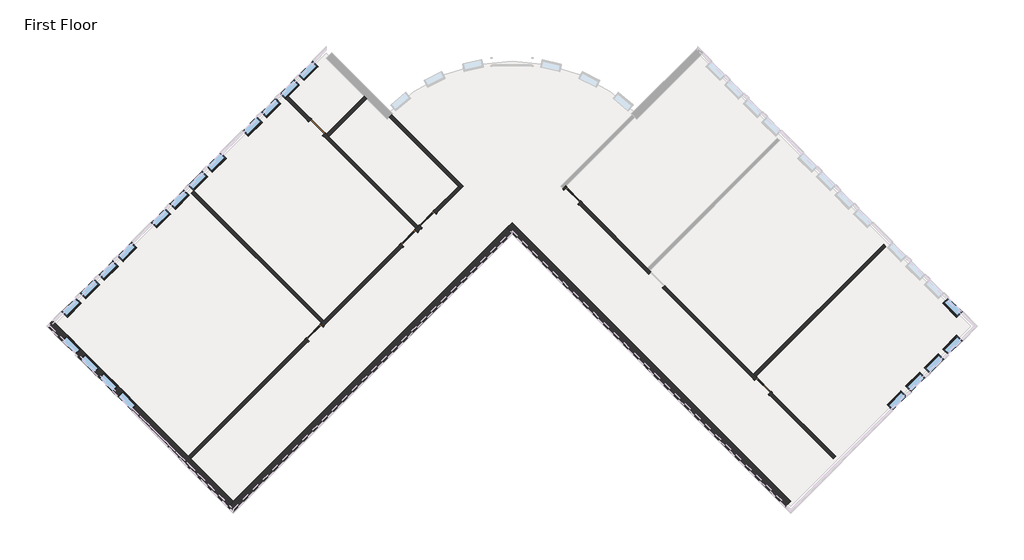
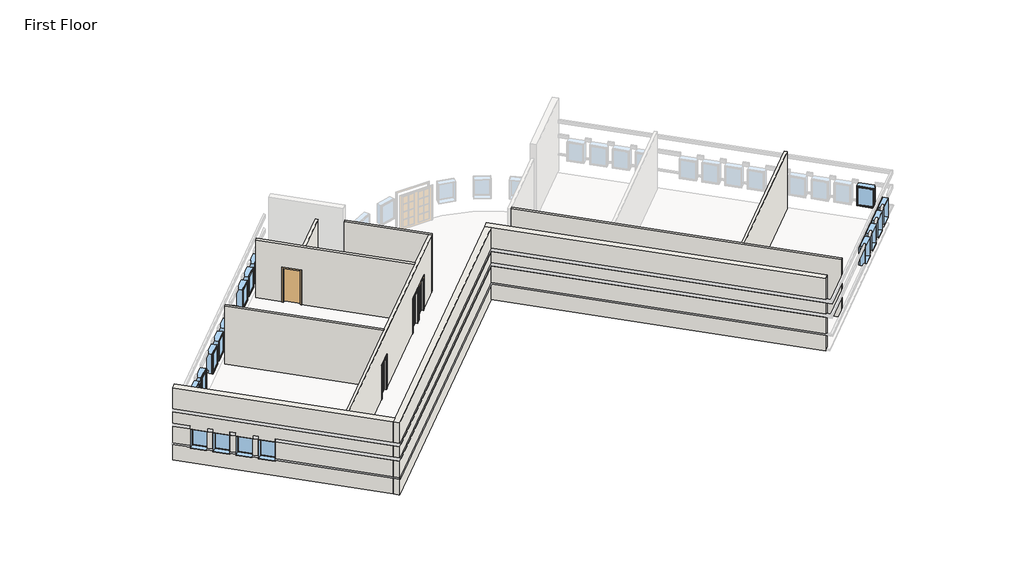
# One storey, part 1 of 3: 21 windows, 10 walls, 6 doors.
"""IFC4 building model written with IfcOpenShell, lengths in millimetres."""

from ifc_helpers import new_model, si_unit, frame, origin, origin_with_axes, place, context, project, spatial, polyline, circle_curve, outline, extrude, faceted_brep, transform, mapped, element, save
from ifc_brep_helpers import plane_surface, cylinder_surface, advanced_brep
from components import door_f9494b7c, door_b81abb0e, door_5f5b55da, window_15c49d37, window_0e2fc6ce

model = new_model("IFC4")

# Units and contexts
model_context = context("Model", 3, world=origin())
ifc_project = project(units=[si_unit("LENGTHUNIT", "METRE", prefix="MILLI")], contexts=[model_context])

# Site, building, storey
site = spatial("IfcSite", under=ifc_project)
building = spatial("IfcBuilding", under=site)
storey = spatial("IfcBuildingStorey", under=building, Name="First Floor", Elevation=0.0)

# Doors
placement = place(None, origin())
door_shape = door_f9494b7c(model_context)
element("IfcDoor", 1, ObjectType="Single-Flush : 36\" x 84\"", at=placement, inside=storey, context=model_context, shape_type="MappedRepresentation", body=[
    mapped(door_shape, transform((-11920.1265343, 7875.9588464, 0.0), x_axis=(0.7071067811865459, -0.7071067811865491, 0.0), y_axis=(0.7071067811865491, 0.7071067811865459, 0.0), z_axis=(0.0, 0.0, 1.0))),
])
door_2_shape = door_b81abb0e(model_context)
element("IfcDoor", 2, ObjectType="Single-Glass 1 : 36\" x 84\"", at=placement, inside=storey, context=model_context, shape_type="MappedRepresentation", body=[
    mapped(door_2_shape, transform((-12027.7718255, -1647.4849877, 0.0), x_axis=(0.7071067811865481, 0.7071067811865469, 0.0), y_axis=(-0.7071067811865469, 0.7071067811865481, 0.0), z_axis=(0.0, 0.0, 1.0))),
])
element("IfcDoor", 3, ObjectType="Single-Glass 1 : 36\" x 84\"", at=placement, inside=storey, context=model_context, shape_type="MappedRepresentation", body=[
    mapped(door_2_shape, transform((-7643.2795567, 2737.0072811, 0.0), x_axis=(0.7071067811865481, 0.7071067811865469, 0.0), y_axis=(-0.7071067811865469, 0.7071067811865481, 0.0), z_axis=(0.0, 0.0, 1.0))),
])
door_3_shape = door_5f5b55da(model_context)
element("IfcDoor", 4, ObjectType="Single-Glass 1 : 36\" x 84\"", at=placement, inside=storey, context=model_context, shape_type="MappedRepresentation", body=[
    mapped(door_3_shape, transform((-6781.1749691, 3599.1118687, 0.0), x_axis=(-0.7071067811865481, -0.7071067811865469, 0.0), y_axis=(0.7071067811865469, -0.7071067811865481, 0.0), z_axis=(0.0, 0.0, 1.0))),
])
element("IfcDoor", 5, ObjectType="Single-Glass 1 : 36\" x 84\"", at=placement, inside=storey, context=model_context, shape_type="MappedRepresentation", body=[
    mapped(door_3_shape, transform((-66.4240191, 4710.6541283, 0.0), x_axis=(-0.7071067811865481, 0.7071067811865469, 0.0), y_axis=(-0.7071067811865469, -0.7071067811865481, 0.0), z_axis=(0.0, 0.0, 1.0))),
])
element("IfcDoor", 6, ObjectType="Single-Glass 1 : 36\" x 84\"", at=placement, inside=storey, context=model_context, shape_type="MappedRepresentation", body=[
    mapped(door_3_shape, transform((8770.3835686, -4126.1534594, 0.0), x_axis=(-0.7071067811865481, 0.7071067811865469, 0.0), y_axis=(-0.7071067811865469, -0.7071067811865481, 0.0), z_axis=(0.0, 0.0, 1.0))),
])

# Walls
element("IfcWall", 7, ObjectType="Exterior - Split Face and CMU on Mtl. Stud", at=placement, inside=storey, context=model_context, shape_type="Brep", body=[
    faceted_brep([(10063.54045, -9480.6311716, 0.0), (-2868.0283643, 3450.9376427, 0.0), (-2868.0283643, 3450.9376427, 4572.0), (10063.54045, -9480.6311716, 4572.0), (9814.3383427, -9729.833279, 4572.0), (-2868.0283643, 2952.533428, 4572.0), (-3117.2304717, 3201.7355354, 4572.0), (-3117.2304717, 3201.7355354, 0.0), (-2868.0283643, 2952.533428, 0.0), (9814.3383427, -9729.833279, 0.0), (9814.3383427, -9729.833279, 1016.0), (-2868.0283643, 2952.533428, 1016.0), (-2933.1352212, 3017.6402849, 1016.0), (-2933.1352212, 3017.6402849, 1085.85), (-2868.0283643, 2952.533428, 1085.85), (9814.3383427, -9729.833279, 1085.85), (9814.3383427, -9729.833279, 2133.6), (-2868.0283643, 2952.533428, 2133.6), (-2933.1352212, 3017.6402849, 2133.6), (-2933.1352212, 3017.6402849, 2336.8), (-2868.0283643, 2952.533428, 2336.8), (9814.3383427, -9729.833279, 2336.8), (9814.3383427, -9729.833279, 3048.0), (-2868.0283643, 2952.533428, 3048.0), (-2933.1352212, 3017.6402849, 3048.0), (-2933.1352212, 3017.6402849, 3251.2), (-2868.0283643, 2952.533428, 3251.2), (9814.3383427, -9729.833279, 3251.2), (-3052.1236148, 3266.8423923, 0.0), (9879.4451996, -9664.7264221, 3251.2), (9879.4451996, -9664.7264221, 3048.0), (9879.4451996, -9664.7264221, 2336.8), (9879.4451996, -9664.7264221, 2133.6), (9879.4451996, -9664.7264221, 1085.85), (9879.4451996, -9664.7264221, 1016.0), (9879.4451996, -9664.7264221, 0.0), (-2868.0283643, 3082.7471418, 1085.85), (-2868.0283643, 3082.7471418, 1016.0), (-2868.0283643, 3082.7471418, 2133.6), (-2868.0283643, 3082.7471418, 2336.8), (-2868.0283643, 3082.7471418, 3048.0), (-2868.0283643, 3082.7471418, 3251.2)], [[[0, 1, 2, 3]], [[4, 5, 6, 7, 8, 9, 10, 11, 12, 13, 14, 15, 16, 17, 18, 19, 20, 21, 22, 23, 24, 25, 26, 27]], [[3, 2, 6, 5, 4]], [[2, 1, 28, 7, 6]], [[0, 3, 4, 27, 29, 30, 22, 21, 31, 32, 16, 15, 33, 34, 10, 9, 35]], [[1, 0, 35, 28]], [[35, 9, 8, 7, 28]], [[13, 36, 33, 15, 14]], [[34, 37, 12, 11, 10]], [[36, 37, 34, 33]], [[37, 36, 13, 12]], [[32, 38, 18, 17, 16]], [[19, 39, 31, 21, 20]], [[39, 38, 32, 31]], [[38, 39, 19, 18]], [[30, 40, 24, 23, 22]], [[25, 41, 29, 27, 26]], [[41, 40, 30, 29]], [[40, 41, 25, 24]]]),
])
element("IfcWall", 8, ObjectType="Exterior - Split Face and CMU on Mtl. Stud", at=placement, inside=storey, context=model_context, shape_type="Brep", body=[
    faceted_brep([(-3117.2304717, 3201.7355354, 0.0), (-15799.5971786, -9480.6311716, 0.0), (-16048.799286, -9729.833279, 0.0), (-16048.799286, -9729.833279, 1016.0), (-15983.6924291, -9664.7264221, 1016.0), (-15983.6924291, -9664.7264221, 1085.85), (-16048.799286, -9729.833279, 1085.85), (-16048.799286, -9729.833279, 2133.6), (-15983.6924291, -9664.7264221, 2133.6), (-15983.6924291, -9664.7264221, 2336.8), (-16048.799286, -9729.833279, 2336.8), (-16048.799286, -9729.833279, 3048.0), (-15983.6924291, -9664.7264221, 3048.0), (-15983.6924291, -9664.7264221, 3251.2), (-16048.799286, -9729.833279, 3251.2), (-16048.799286, -9729.833279, 4572.0), (-15799.5971786, -9480.6311716, 4572.0), (-3117.2304717, 3201.7355354, 4572.0), (-2868.0283643, 2952.533428, 4572.0), (-15799.5971786, -9979.0353863, 4572.0), (-15799.5971786, -9979.0353863, 3251.2), (-2868.0283643, 2952.533428, 3251.2), (-15799.5971786, -9979.0353863, 0.0), (-2868.0283643, 2952.533428, 0.0), (-2868.0283643, 2952.533428, 1016.0), (-15799.5971786, -9979.0353863, 1016.0), (-15799.5971786, -9979.0353863, 1085.85), (-2868.0283643, 2952.533428, 1085.85), (-2868.0283643, 2952.533428, 2133.6), (-15799.5971786, -9979.0353863, 2133.6), (-15799.5971786, -9979.0353863, 2336.8), (-2868.0283643, 2952.533428, 2336.8), (-2868.0283643, 2952.533428, 3048.0), (-15799.5971786, -9979.0353863, 3048.0), (-15864.7040355, -9913.9285294, 0.0), (-2933.1352212, 3017.6402849, 3251.2), (-2933.1352212, 3017.6402849, 3048.0), (-2933.1352212, 3017.6402849, 2336.8), (-2933.1352212, 3017.6402849, 2133.6), (-2933.1352212, 3017.6402849, 1085.85), (-2933.1352212, 3017.6402849, 1016.0), (-2933.1352212, 3017.6402849, 0.0), (-15799.5971786, -9848.8216726, 1085.85), (-15799.5971786, -9848.8216726, 1016.0), (-15799.5971786, -9848.8216726, 2133.6), (-15799.5971786, -9848.8216726, 2336.8), (-15799.5971786, -9848.8216726, 3048.0), (-15799.5971786, -9848.8216726, 3251.2)], [[[0, 1, 2, 3, 4, 5, 6, 7, 8, 9, 10, 11, 12, 13, 14, 15, 16, 17]], [[18, 19, 20, 21]], [[22, 23, 24, 25]], [[26, 27, 28, 29]], [[30, 31, 32, 33]], [[17, 16, 15, 19, 18]], [[19, 15, 14, 20]], [[2, 34, 22, 25, 3]], [[6, 26, 29, 7]], [[10, 30, 33, 11]], [[0, 17, 18, 21, 35, 36, 32, 31, 37, 38, 28, 27, 39, 40, 24, 23, 41]], [[2, 1, 0, 41, 34]], [[41, 23, 22, 34]], [[5, 42, 39, 27, 26, 6]], [[40, 43, 4, 3, 25, 24]], [[42, 43, 40, 39]], [[43, 42, 5, 4]], [[38, 44, 8, 7, 29, 28]], [[9, 45, 37, 31, 30, 10]], [[45, 44, 38, 37]], [[44, 45, 9, 8]], [[36, 46, 12, 11, 33, 32]], [[13, 47, 35, 21, 20, 14]], [[47, 46, 36, 35]], [[46, 47, 13, 12]]]),
])
element("IfcWall", 9, ObjectType="Exterior - Split Face and CMU on Mtl. Stud", at=placement, inside=storey, context=model_context, shape_type="Brep", body=[
    faceted_brep([(-15799.5971786, -9480.6311716, 4572.0), (-23922.2388402, -1357.9895101, 4572.0), (-24171.4409475, -1108.7874027, 4572.0), (-24420.6430549, -1357.9895101, 4572.0), (-16048.799286, -9729.833279, 4572.0), (-15799.5971786, -9480.6311716, 0.0), (-17775.2535253, -7504.974825, 0.0), (-17885.2616628, -7394.9666875, 0.0), (-23922.2388402, -1357.9895101, 0.0), (-24171.4409475, -1108.7874027, 0.0), (-24171.4409475, -1108.7874027, 1016.0), (-24106.3340906, -1173.8942596, 1016.0), (-24106.3340906, -1173.8942596, 1085.85), (-24171.4409475, -1108.7874027, 1085.85), (-24171.4409475, -1108.7874027, 2133.6), (-24106.3340906, -1173.8942596, 2133.6), (-24106.3340906, -1173.8942596, 2336.8), (-24171.4409475, -1108.7874027, 2336.8), (-24171.4409475, -1108.7874027, 3048.0), (-24106.3340906, -1173.8942596, 3048.0), (-24106.3340906, -1173.8942596, 3251.2), (-24171.4409475, -1108.7874027, 3251.2), (-20921.7107637, -4358.5175865, 2133.6), (-20921.7107637, -4358.5175865, 914.4), (-20275.132323, -5005.0960273, 914.4), (-20275.132323, -5005.0960273, 2133.6), (-21783.8153513, -3496.4129989, 2133.6), (-21783.8153513, -3496.4129989, 914.4), (-21137.2369106, -4142.9914396, 914.4), (-21137.2369106, -4142.9914396, 2133.6), (-22645.9199389, -2634.3084113, 2133.6), (-22645.9199389, -2634.3084113, 914.4), (-21999.3414982, -3280.886852, 914.4), (-21999.3414982, -3280.886852, 2133.6), (-23508.0245266, -1772.2038237, 2133.6), (-23508.0245266, -1772.2038237, 914.4), (-22861.4460859, -2418.7822644, 914.4), (-22861.4460859, -2418.7822644, 2133.6), (-24420.6430549, -1357.9895101, 3251.2), (-16048.799286, -9729.833279, 3251.2), (-24420.6430549, -1357.9895101, 0.0), (-16048.799286, -9729.833279, 0.0), (-16048.799286, -9729.833279, 1016.0), (-20524.3344303, -5254.2981346, 1016.0), (-20524.3344303, -5254.2981346, 914.4), (-21170.9128711, -4607.7196939, 914.4), (-21170.9128711, -4607.7196939, 1016.0), (-21386.439018, -4392.193547, 1016.0), (-21386.439018, -4392.193547, 914.4), (-22033.0174587, -3745.6151063, 914.4), (-22033.0174587, -3745.6151063, 1016.0), (-22248.5436056, -3530.0889594, 1016.0), (-22248.5436056, -3530.0889594, 914.4), (-22895.1220463, -2883.5105187, 914.4), (-22895.1220463, -2883.5105187, 1016.0), (-23110.6481932, -2667.9843718, 1016.0), (-23110.6481932, -2667.9843718, 914.4), (-23757.2266339, -2021.405931, 914.4), (-23757.2266339, -2021.405931, 1016.0), (-24420.6430549, -1357.9895101, 1016.0), (-21170.9128711, -4607.7196939, 2133.6), (-20524.3344303, -5254.2981346, 2133.6), (-20524.3344303, -5254.2981346, 2336.8), (-16048.799286, -9729.833279, 2336.8), (-16048.799286, -9729.833279, 3048.0), (-24420.6430549, -1357.9895101, 3048.0), (-24420.6430549, -1357.9895101, 2336.8), (-23757.2266339, -2021.405931, 2336.8), (-23757.2266339, -2021.405931, 2133.6), (-23110.6481932, -2667.9843718, 2133.6), (-23110.6481932, -2667.9843718, 2336.8), (-22895.1220463, -2883.5105187, 2336.8), (-22895.1220463, -2883.5105187, 2133.6), (-22248.5436056, -3530.0889594, 2133.6), (-22248.5436056, -3530.0889594, 2336.8), (-22033.0174587, -3745.6151063, 2336.8), (-22033.0174587, -3745.6151063, 2133.6), (-21386.439018, -4392.193547, 2133.6), (-21386.439018, -4392.193547, 2336.8), (-21170.9128711, -4607.7196939, 2336.8), (-20524.3344303, -5254.2981346, 1085.85), (-16048.799286, -9729.833279, 1085.85), (-16048.799286, -9729.833279, 2133.6), (-21170.9128711, -4607.7196939, 1085.85), (-21386.439018, -4392.193547, 1085.85), (-22033.0174587, -3745.6151063, 1085.85), (-22248.5436056, -3530.0889594, 1085.85), (-22895.1220463, -2883.5105187, 1085.85), (-23110.6481932, -2667.9843718, 1085.85), (-23757.2266339, -2021.405931, 1085.85), (-24420.6430549, -1357.9895101, 2133.6), (-24420.6430549, -1357.9895101, 1085.85), (-15983.6924291, -9664.7264221, 0.0), (-24355.536198, -1292.8826532, 0.0), (-15983.6924291, -9664.7264221, 3251.2), (-15983.6924291, -9664.7264221, 3048.0), (-15983.6924291, -9664.7264221, 2336.8), (-15983.6924291, -9664.7264221, 2133.6), (-15983.6924291, -9664.7264221, 1085.85), (-15983.6924291, -9664.7264221, 1016.0), (-21105.8060142, -4542.612837, 2133.6), (-21105.8060142, -4542.612837, 1085.85), (-21105.8060142, -4542.612837, 1016.0), (-20459.2275735, -5189.1912777, 1016.0), (-20459.2275735, -5189.1912777, 1085.85), (-20459.2275735, -5189.1912777, 2133.6), (-21967.9106018, -3680.5082494, 2133.6), (-21967.9106018, -3680.5082494, 1085.85), (-21967.9106018, -3680.5082494, 1016.0), (-21321.3321611, -4327.0866901, 1016.0), (-21321.3321611, -4327.0866901, 1085.85), (-21321.3321611, -4327.0866901, 2133.6), (-22830.0151894, -2818.4036618, 2133.6), (-22830.0151894, -2818.4036618, 1085.85), (-22830.0151894, -2818.4036618, 1016.0), (-22183.4367487, -3464.9821025, 1016.0), (-22183.4367487, -3464.9821025, 1085.85), (-22183.4367487, -3464.9821025, 2133.6), (-23692.119777, -1956.2990742, 2133.6), (-23692.119777, -1956.2990742, 1085.85), (-23692.119777, -1956.2990742, 1016.0), (-23045.5413363, -2602.8775149, 1016.0), (-23045.5413363, -2602.8775149, 1085.85), (-23045.5413363, -2602.8775149, 2133.6), (-24290.4293411, -1357.9895101, 1085.85), (-24290.4293411, -1357.9895101, 1016.0), (-20459.2275735, -5189.1912777, 2133.6), (-20459.2275735, -5189.1912777, 2336.8), (-21105.8060142, -4542.612837, 2133.6), (-21105.8060142, -4542.612837, 2336.8), (-21321.3321611, -4327.0866901, 2336.8), (-21321.3321611, -4327.0866901, 2133.6), (-21967.9106018, -3680.5082494, 2133.6), (-21967.9106018, -3680.5082494, 2336.8), (-22183.4367487, -3464.9821025, 2336.8), (-22183.4367487, -3464.9821025, 2133.6), (-22830.0151894, -2818.4036618, 2133.6), (-22830.0151894, -2818.4036618, 2336.8), (-23045.5413363, -2602.8775149, 2336.8), (-23045.5413363, -2602.8775149, 2133.6), (-23692.119777, -1956.2990742, 2133.6), (-23692.119777, -1956.2990742, 2336.8), (-24290.4293411, -1357.9895101, 2133.6), (-24290.4293411, -1357.9895101, 2336.8), (-24290.4293411, -1357.9895101, 3048.0), (-24290.4293411, -1357.9895101, 3251.2)], [[[0, 1, 2, 3, 4]], [[5, 6, 7, 8, 9, 10, 11, 12, 13, 14, 15, 16, 17, 18, 19, 20, 21, 2, 1, 0], [22, 23, 24, 25], [26, 27, 28, 29], [30, 31, 32, 33], [34, 35, 36, 37]], [[4, 3, 38, 39]], [[40, 41, 42, 43, 44, 45, 46, 47, 48, 49, 50, 51, 52, 53, 54, 55, 56, 57, 58, 59]], [[60, 61, 62, 63, 64, 65, 66, 67, 68, 69, 70, 71, 72, 73, 74, 75, 76, 77, 78, 79]], [[61, 80, 81, 82]], [[83, 60, 77, 84]], [[85, 76, 73, 86]], [[87, 72, 69, 88]], [[89, 68, 90, 91]], [[9, 8, 7, 6, 5, 92, 93]], [[5, 0, 4, 39, 94, 95, 64, 63, 96, 97, 82, 81, 98, 99, 42, 41, 92]], [[41, 40, 93, 92]], [[3, 2, 21, 38]], [[9, 93, 40, 59, 10]], [[13, 91, 90, 14]], [[17, 66, 65, 18]], [[23, 22, 100, 60, 83, 101, 102, 46, 45]], [[24, 23, 45, 44]], [[25, 24, 44, 43, 103, 104, 80, 61, 105]], [[22, 25, 105, 61, 60, 100]], [[27, 26, 106, 76, 85, 107, 108, 50, 49]], [[28, 27, 49, 48]], [[29, 28, 48, 47, 109, 110, 84, 77, 111]], [[26, 29, 111, 77, 76, 106]], [[31, 30, 112, 72, 87, 113, 114, 54, 53]], [[32, 31, 53, 52]], [[33, 32, 52, 51, 115, 116, 86, 73, 117]], [[30, 33, 117, 73, 72, 112]], [[35, 34, 118, 68, 89, 119, 120, 58, 57]], [[36, 35, 57, 56]], [[37, 36, 56, 55, 121, 122, 88, 69, 123]], [[34, 37, 123, 69, 68, 118]], [[104, 98, 81, 80]], [[99, 103, 43, 42]], [[98, 104, 103, 99]], [[110, 101, 83, 84]], [[102, 109, 47, 46]], [[101, 110, 109, 102]], [[116, 107, 85, 86]], [[108, 115, 51, 50]], [[107, 116, 115, 108]], [[122, 113, 87, 88]], [[114, 121, 55, 54]], [[113, 122, 121, 114]], [[124, 119, 89, 91, 13, 12]], [[120, 125, 11, 10, 59, 58]], [[119, 124, 125, 120]], [[125, 124, 12, 11]], [[126, 61, 82, 97]], [[62, 127, 96, 63]], [[61, 126, 127, 62]], [[127, 126, 97, 96]], [[128, 60, 79, 129]], [[130, 78, 77, 131]], [[60, 128, 131, 77]], [[128, 129, 130, 131]], [[129, 79, 78, 130]], [[132, 76, 75, 133]], [[134, 74, 73, 135]], [[76, 132, 135, 73]], [[132, 133, 134, 135]], [[133, 75, 74, 134]], [[136, 72, 71, 137]], [[138, 70, 69, 139]], [[72, 136, 139, 69]], [[136, 137, 138, 139]], [[137, 71, 70, 138]], [[140, 68, 67, 141]], [[68, 140, 142, 15, 14, 90]], [[140, 141, 143, 142]], [[141, 67, 66, 17, 16, 143]], [[142, 143, 16, 15]], [[95, 144, 19, 18, 65, 64]], [[20, 145, 94, 39, 38, 21]], [[145, 144, 95, 94]], [[144, 145, 20, 19]]]),
])
element("IfcWall", 10, ObjectType="Interior - 6 1/8\" Partition (2-hr)", at=placement, inside=storey, context=model_context, shape_type="Brep", body=[
    faceted_brep([(-7374.9944051, 3115.3005702, 0.0), (-7322.2354004, 3168.0595749, 0.0), (-7212.2272629, 3278.0677124, 0.0), (-7159.4682582, 3330.8267171, 0.0), (-7049.4601207, 3220.8185796, 0.0), (-7264.9862676, 3005.2924327, 0.0), (-12296.0569771, -2025.7782768, 0.0), (-17775.2535253, -7504.974825, 0.0), (-17885.2616628, -7394.9666875, 0.0), (-12406.0651146, -1915.7701393, 0.0), (-7911.5647083, 2358.713992, 0.0), (-11649.4785364, -1379.1998361, 0.0), (-11759.4866739, -1269.1916986, 0.0), (-11706.7276692, -1216.4326939, 0.0), (-11596.7195317, -1106.4245564, 0.0), (-8021.5728458, 2468.7221295, 0.0), (-6512.8898174, 3977.4051578, 0.0), (-5348.5885532, 5141.7064221, 0.0), (-5238.5804157, 5031.6982846, 0.0), (-6402.88168, 3867.3970204, 0.0), (-17775.2535253, -7504.974825, 3657.6), (-5238.5804157, 5031.6982846, 3657.6), (-5348.5885532, 5141.7064221, 3657.6), (-7212.2272629, 3278.0677124, 3657.6), (-7322.2354004, 3168.0595749, 3657.6), (-11596.7195317, -1106.4245564, 3657.6), (-11706.7276692, -1216.4326939, 3657.6), (-17885.2616628, -7394.9666875, 3657.6), (-7049.4601207, 3220.8185796, 2133.6), (-6402.88168, 3867.3970204, 2133.6), (-12296.0569771, -2025.7782768, 2133.6), (-11649.4785364, -1379.1998361, 2133.6), (-7911.5647083, 2358.713992, 2133.6), (-7264.9862676, 3005.2924327, 2133.6), (-7159.4682582, 3330.8267171, 2133.6), (-7374.9944051, 3115.3005702, 2133.6), (-8021.5728458, 2468.7221295, 2133.6), (-11759.4866739, -1269.1916986, 2133.6), (-12406.0651146, -1915.7701393, 2133.6), (-6512.8898174, 3977.4051578, 2133.6)], [[[0, 1, 2, 3, 4, 5]], [[6, 7, 8, 9]], [[10, 11, 12, 13, 14, 15]], [[16, 17, 18, 19]], [[20, 21, 22, 23, 24, 25, 26, 27]], [[5, 4, 28, 29, 19, 18, 21, 20, 7, 6, 30, 31, 11, 10, 32, 33]], [[34, 3, 2, 1, 0, 35, 36, 15, 14, 13, 12, 37, 38, 9, 8, 27, 26, 25, 24, 23, 22, 17, 16, 39]], [[7, 20, 27, 8]], [[21, 18, 17, 22]], [[37, 12, 11, 31]], [[38, 37, 31, 30]], [[9, 38, 30, 6]], [[35, 0, 5, 33]], [[36, 35, 33, 32]], [[15, 36, 32, 10]], [[28, 4, 3, 34]], [[29, 28, 34, 39]], [[19, 29, 39, 16]]]),
])
element("IfcWall", 11, ObjectType="Interior - 6 1/8\" Partition (2-hr)", at=placement, inside=storey, context=model_context, shape_type="Brep", body=[
    faceted_brep([(-7322.2354004, 3168.0595749, 0.0), (-11651.8413827, 7497.6655573, 0.0), (-11541.8332452, 7607.6736948, 0.0), (-11489.0742405, 7554.9146901, 0.0), (-11379.066103, 7444.9065526, 0.0), (-7212.2272629, 3278.0677124, 0.0), (-12298.4198234, 8144.243998, 0.0), (-13359.2125777, 9205.0367523, 0.0), (-13249.2044403, 9315.0448898, 0.0), (-12188.411686, 8254.2521355, 0.0), (-7212.2272629, 3278.0677124, 3657.6), (-11379.066103, 7444.9065526, 3657.6), (-11489.0742405, 7554.9146901, 3657.6), (-13249.2044403, 9315.0448898, 3657.6), (-13359.2125777, 9205.0367523, 3657.6), (-7322.2354004, 3168.0595749, 3657.6), (-11541.8332452, 7607.6736948, 2133.6), (-12188.411686, 8254.2521355, 2133.6), (-11651.8413827, 7497.6655573, 2133.6), (-12298.4198234, 8144.243998, 2133.6)], [[[0, 1, 2, 3, 4, 5]], [[6, 7, 8, 9]], [[10, 11, 12, 13, 14, 15]], [[5, 4, 3, 2, 16, 17, 9, 8, 13, 12, 11, 10]], [[18, 1, 0, 15, 14, 7, 6, 19]], [[13, 8, 7, 14]], [[5, 10, 15, 0]], [[16, 2, 1, 18]], [[17, 16, 18, 19]], [[9, 17, 19, 6]]]),
])
element("IfcWall", 12, ObjectType="Interior - 6 1/8\" Partition (2-hr)", at=placement, inside=storey, context=model_context, shape_type="AdvancedBrep", body=[
    advanced_brep(
    [(-5128.5722782, 5141.7064221, 0.0), (-8449.0111375, 8462.1452813, 0.0), (-8449.0111375, 8462.1452813, 3657.6), (-5128.5722782, 5141.7064221, 3657.6), (-5238.5804157, 5031.6982846, 0.0), (-5238.5804157, 5031.6982846, 3657.6), (-5348.5885532, 5141.7064221, 3657.6), (-8557.7157352, 8350.8336041, 3657.6), (-8557.7157352, 8350.8336041, 0.0), (-5348.5885532, 5141.7064221, 0.0)],
    [
        (0, 1),
        (1, 2),
        (2, 3),
        (3, 0),
        (4, 5),
        (5, 6),
        (6, 7),
        (7, 8),
        (8, 9),
        (9, 4),
        (0, 4),
        (8, 1, circle_curve(frame((-2868.0283643, 2903.1420194, 0.0), z_axis=(0.0, 0.0, -1.0), x_axis=(1.0, 0.0, 0.0)), 7877.175)),
        (2, 7, circle_curve(frame((-2868.0283643, 2903.1420194, 3657.6), z_axis=(0.0, 0.0, 1.0), x_axis=(1.0, 0.0, 0.0)), 7877.175)),
        (5, 3),
    ],
    [
        plane_surface(frame((-5183.576347, 5196.7104908, 0.0), z_axis=(0.7071067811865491, 0.7071067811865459, 0.0), x_axis=(-0.7071067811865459, 0.7071067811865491, 0.0))),
        plane_surface(frame((-5293.5844845, 5086.7023533, 0.0), z_axis=(-0.7071067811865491, -0.7071067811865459, 0.0), x_axis=(0.7071067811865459, -0.7071067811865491, 0.0))),
        plane_surface(frame((-5183.576347, 5196.7104908, 0.0), z_axis=(0.0, 0.0, -1.0), x_axis=(-0.707106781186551, -0.7071067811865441, 0.0))),
        plane_surface(frame((-8573.2406241, 8586.374768, 3657.6), z_axis=(0.0, 0.0, 1.0), x_axis=(-0.707106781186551, -0.7071067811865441, 0.0))),
        plane_surface(frame((-17899.854579, -7629.5758786, 0.0), z_axis=(0.7071067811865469, -0.7071067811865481, 0.0), x_axis=(0.7071067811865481, 0.7071067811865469, 0.0))),
        cylinder_surface(frame((-2868.0283643, 2903.1420194, 0.0), z_axis=(0.0, 0.0, -1.0), x_axis=(1.0, 0.0, 0.0)), 7877.175),
    ],
    [
        (0, [[1, 2, 3, 4]]),
        (1, [[5, 6, 7, 8, 9, 10]]),
        (2, [[-1, 11, -10, -9, 12]]),
        (3, [[-3, 13, -7, -6, 14]]),
        (4, [[-4, -14, -5, -11]]),
        (5, [[-2, -12, -8, -13]]),
    ],
),
])
element("IfcWall", 13, ObjectType="Interior - 6 1/8\" Partition (2-hr)", at=placement, inside=storey, context=model_context, shape_type="SweptSolid", body=[
    extrude(outline(polyline([(-11489.0742405, 7554.9146901), (-9728.9440408, 9315.0448898), (-9618.9359033, 9205.0367523), (-11379.066103, 7444.9065526), (-11489.0742405, 7554.9146901)])), origin_with_axes(), (0.0, 0.0, 1.0), 3657.6),
])
element("IfcWall", 14, ObjectType="Interior - 6 1/8\" Partition (2-hr)", at=placement, inside=storey, context=model_context, shape_type="SweptSolid", body=[
    extrude(outline(polyline([(-17633.6967091, 4930.552621), (-11596.7195317, -1106.4245564), (-11706.7276692, -1216.4326939), (-17743.7048466, 4820.5444835), (-17633.6967091, 4930.552621)])), origin_with_axes(), (0.0, 0.0, 1.0), 3657.6),
])
element("IfcWall", 15, ObjectType="Interior - 6 1/8\" Partition (2-hr)", at=placement, inside=storey, context=model_context, shape_type="Brep", body=[
    faceted_brep([(-387.4681754, 5141.7064221, 0.0), (-334.7091707, 5088.9474174, 0.0), (-444.7173082, 4978.9392799, 0.0), (-497.4763129, 5031.6982846, 0.0), (311.86927, 4442.3689766, 0.0), (3415.9058564, 1338.3323903, 0.0), (3525.9139939, 1228.3242528, 0.0), (3578.6729986, 1175.5652481, 0.0), (3468.6648611, 1065.5571106, 0.0), (201.8611325, 4332.3608392, 0.0), (4225.2514393, 528.9868073, 0.0), (8339.3312748, -3585.0930281, 0.0), (8449.3394123, -3695.1011656, 0.0), (8502.098417, -3747.8601703, 0.0), (8392.0902795, -3857.8683078, 0.0), (4115.2433018, 418.9786699, 0.0), (9148.6768577, -4394.438611, 0.0), (12149.2049342, -7394.9666875, 0.0), (12039.1967967, -7504.974825, 0.0), (9038.6687202, -4504.4467485, 0.0), (12149.2049342, -7394.9666875, 3657.6), (8449.3394123, -3695.1011656, 3657.6), (8339.3312748, -3585.0930281, 3657.6), (3525.9139939, 1228.3242528, 3657.6), (3415.9058564, 1338.3323903, 3657.6), (-387.4681754, 5141.7064221, 3657.6), (-497.4763129, 5031.6982846, 3657.6), (12039.1967967, -7504.974825, 3657.6), (8502.098417, -3747.8601703, 2133.6), (4225.2514393, 528.9868073, 2133.6), (3578.6729986, 1175.5652481, 2133.6), (311.86927, 4442.3689766, 2133.6), (-334.7091707, 5088.9474174, 2133.6), (9148.6768577, -4394.438611, 2133.6), (8392.0902795, -3857.8683078, 2133.6), (9038.6687202, -4504.4467485, 2133.6), (-444.7173082, 4978.9392799, 2133.6), (201.8611325, 4332.3608392, 2133.6), (3468.6648611, 1065.5571106, 2133.6), (4115.2433018, 418.9786699, 2133.6)], [[[0, 1, 2, 3]], [[4, 5, 6, 7, 8, 9]], [[10, 11, 12, 13, 14, 15]], [[16, 17, 18, 19]], [[20, 21, 22, 23, 24, 25, 26, 27]], [[28, 13, 12, 11, 10, 29, 30, 7, 6, 5, 4, 31, 32, 1, 0, 25, 24, 23, 22, 21, 20, 17, 16, 33]], [[15, 14, 34, 35, 19, 18, 27, 26, 3, 2, 36, 37, 9, 8, 38, 39]], [[25, 0, 3, 26]], [[17, 20, 27, 18]], [[36, 2, 1, 32]], [[37, 36, 32, 31]], [[9, 37, 31, 4]], [[38, 8, 7, 30]], [[39, 38, 30, 29]], [[15, 39, 29, 10]], [[34, 14, 13, 28]], [[35, 34, 28, 33]], [[19, 35, 33, 16]]]),
])
element("IfcWall", 16, ObjectType="Interior - 6 1/8\" Partition (2-hr)", at=placement, inside=storey, context=model_context, shape_type="SweptSolid", body=[
    extrude(outline(polyline([(8339.3312748, -3585.0930281), (14376.3084522, 2451.8841493), (14486.3165897, 2341.8760118), (8449.3394123, -3695.1011656), (8339.3312748, -3585.0930281)])), origin_with_axes(), (0.0, 0.0, 1.0), 3657.6),
])

# Windows
window_shape = window_15c49d37(model_context)
element("IfcWindow", 17, ObjectType="Fixed : 36\" x 48\"", at=placement, inside=storey, context=model_context, shape_type="MappedRepresentation", body=[
    mapped(window_shape, transform((-23336.2771283, -522.8256908, 0.0), x_axis=(-0.7071067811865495, -0.7071067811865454, 0.0), y_axis=(0.7071067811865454, -0.7071067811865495, 0.0), z_axis=(0.0, 0.0, 1.0))),
])
element("IfcWindow", 18, ObjectType="Fixed : 36\" x 48\"", at=placement, inside=storey, context=model_context, shape_type="MappedRepresentation", body=[
    mapped(window_shape, transform((-22474.1725406, 339.2788968, 0.0), x_axis=(-0.7071067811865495, -0.7071067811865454, 0.0), y_axis=(0.7071067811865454, -0.7071067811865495, 0.0), z_axis=(0.0, 0.0, 1.0))),
])
element("IfcWindow", 19, ObjectType="Fixed : 36\" x 48\"", at=placement, inside=storey, context=model_context, shape_type="MappedRepresentation", body=[
    mapped(window_shape, transform((-21612.067953, 1201.3834844, 0.0), x_axis=(-0.7071067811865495, -0.7071067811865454, 0.0), y_axis=(0.7071067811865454, -0.7071067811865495, 0.0), z_axis=(0.0, 0.0, 1.0))),
])
element("IfcWindow", 20, ObjectType="Fixed : 36\" x 48\"", at=placement, inside=storey, context=model_context, shape_type="MappedRepresentation", body=[
    mapped(window_shape, transform((-20749.9633654, 2063.488072, 0.0), x_axis=(-0.7071067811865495, -0.7071067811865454, 0.0), y_axis=(0.7071067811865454, -0.7071067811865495, 0.0), z_axis=(0.0, 0.0, 1.0))),
])
element("IfcWindow", 21, ObjectType="Fixed : 36\" x 48\"", at=placement, inside=storey, context=model_context, shape_type="MappedRepresentation", body=[
    mapped(window_shape, transform((-19187.8702245, 3625.5812129, 0.0), x_axis=(-0.7071067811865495, -0.7071067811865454, 0.0), y_axis=(0.7071067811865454, -0.7071067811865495, 0.0), z_axis=(0.0, 0.0, 1.0))),
])
element("IfcWindow", 22, ObjectType="Fixed : 36\" x 48\"", at=placement, inside=storey, context=model_context, shape_type="MappedRepresentation", body=[
    mapped(window_shape, transform((-18325.7656368, 4487.6858006, 0.0), x_axis=(-0.7071067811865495, -0.7071067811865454, 0.0), y_axis=(0.7071067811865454, -0.7071067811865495, 0.0), z_axis=(0.0, 0.0, 1.0))),
])
element("IfcWindow", 23, ObjectType="Fixed : 36\" x 48\"", at=placement, inside=storey, context=model_context, shape_type="MappedRepresentation", body=[
    mapped(window_shape, transform((-17463.6610492, 5349.7903882, 0.0), x_axis=(-0.7071067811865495, -0.7071067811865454, 0.0), y_axis=(0.7071067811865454, -0.7071067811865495, 0.0), z_axis=(0.0, 0.0, 1.0))),
])
element("IfcWindow", 24, ObjectType="Fixed : 36\" x 48\"", at=placement, inside=storey, context=model_context, shape_type="MappedRepresentation", body=[
    mapped(window_shape, transform((-16601.5564616, 6211.8949758, 0.0), x_axis=(-0.7071067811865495, -0.7071067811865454, 0.0), y_axis=(0.7071067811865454, -0.7071067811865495, 0.0), z_axis=(0.0, 0.0, 1.0))),
])
element("IfcWindow", 25, ObjectType="Fixed : 36\" x 48\"", at=placement, inside=storey, context=model_context, shape_type="MappedRepresentation", body=[
    mapped(window_shape, transform((17600.2203996, -2193.1533294, 0.0), x_axis=(0.7071067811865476, 0.7071067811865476, 0.0), y_axis=(-0.7071067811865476, 0.7071067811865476, 0.0), z_axis=(0.0, 0.0, 1.0))),
])
element("IfcWindow", 26, ObjectType="Fixed : 36\" x 48\"", at=placement, inside=storey, context=model_context, shape_type="MappedRepresentation", body=[
    mapped(window_shape, transform((16738.115812, -3055.257917, 0.0), x_axis=(0.7071067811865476, 0.7071067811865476, 0.0), y_axis=(-0.7071067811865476, 0.7071067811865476, 0.0), z_axis=(0.0, 0.0, 1.0))),
])
element("IfcWindow", 27, ObjectType="Fixed : 36\" x 48\"", at=placement, inside=storey, context=model_context, shape_type="MappedRepresentation", body=[
    mapped(window_shape, transform((15876.0112244, -3917.3625046, 0.0), x_axis=(0.7071067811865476, 0.7071067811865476, 0.0), y_axis=(-0.7071067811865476, 0.7071067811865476, 0.0), z_axis=(0.0, 0.0, 1.0))),
])
element("IfcWindow", 28, ObjectType="Fixed : 36\" x 48\"", at=placement, inside=storey, context=model_context, shape_type="MappedRepresentation", body=[
    mapped(window_shape, transform((15013.9066368, -4779.4670922, 0.0), x_axis=(0.7071067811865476, 0.7071067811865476, 0.0), y_axis=(-0.7071067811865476, 0.7071067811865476, 0.0), z_axis=(0.0, 0.0, 1.0))),
])
window_2_shape = window_0e2fc6ce(model_context)
element("IfcWindow", 29, ObjectType="Fixed : 36\" x 48\"", at=placement, inside=storey, context=model_context, shape_type="MappedRepresentation", body=[
    mapped(window_2_shape, transform((-12290.3265348, 10523.1249026, 0.0), x_axis=(0.7071067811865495, 0.7071067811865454, 0.0), y_axis=(-0.7071067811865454, 0.7071067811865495, 0.0), z_axis=(0.0, 0.0, 1.0))),
])
element("IfcWindow", 30, ObjectType="Fixed : 36\" x 48\"", at=placement, inside=storey, context=model_context, shape_type="MappedRepresentation", body=[
    mapped(window_2_shape, transform((-13152.4311224, 9661.020315, 0.0), x_axis=(0.7071067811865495, 0.7071067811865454, 0.0), y_axis=(-0.7071067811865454, 0.7071067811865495, 0.0), z_axis=(0.0, 0.0, 1.0))),
])
element("IfcWindow", 31, ObjectType="Fixed : 36\" x 48\"", at=placement, inside=storey, context=model_context, shape_type="MappedRepresentation", body=[
    mapped(window_2_shape, transform((-14014.53571, 8798.9157274, 0.0), x_axis=(0.7071067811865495, 0.7071067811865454, 0.0), y_axis=(-0.7071067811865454, 0.7071067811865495, 0.0), z_axis=(0.0, 0.0, 1.0))),
])
element("IfcWindow", 32, ObjectType="Fixed : 36\" x 48\"", at=placement, inside=storey, context=model_context, shape_type="MappedRepresentation", body=[
    mapped(window_2_shape, transform((-14876.6402977, 7936.8111398, 0.0), x_axis=(0.7071067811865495, 0.7071067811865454, 0.0), y_axis=(-0.7071067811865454, 0.7071067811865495, 0.0), z_axis=(0.0, 0.0, 1.0))),
])
element("IfcWindow", 33, ObjectType="Fixed : 36\" x 48\"", at=placement, inside=storey, context=model_context, shape_type="MappedRepresentation", body=[
    mapped(window_2_shape, transform((-23336.2771283, -2193.1533294, 0.0), x_axis=(-0.7071067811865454, 0.7071067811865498, 0.0), y_axis=(-0.7071067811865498, -0.7071067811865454, 0.0), z_axis=(0.0, 0.0, 1.0))),
])
element("IfcWindow", 34, ObjectType="Fixed : 36\" x 48\"", at=placement, inside=storey, context=model_context, shape_type="MappedRepresentation", body=[
    mapped(window_2_shape, transform((-22474.1725406, -3055.257917, 0.0), x_axis=(-0.7071067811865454, 0.7071067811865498, 0.0), y_axis=(-0.7071067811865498, -0.7071067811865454, 0.0), z_axis=(0.0, 0.0, 1.0))),
])
element("IfcWindow", 35, ObjectType="Fixed : 36\" x 48\"", at=placement, inside=storey, context=model_context, shape_type="MappedRepresentation", body=[
    mapped(window_2_shape, transform((-21612.067953, -3917.3625046, 0.0), x_axis=(-0.7071067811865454, 0.7071067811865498, 0.0), y_axis=(-0.7071067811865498, -0.7071067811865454, 0.0), z_axis=(0.0, 0.0, 1.0))),
])
element("IfcWindow", 36, ObjectType="Fixed : 36\" x 48\"", at=placement, inside=storey, context=model_context, shape_type="MappedRepresentation", body=[
    mapped(window_2_shape, transform((-20749.9633654, -4779.4670922, 0.0), x_axis=(-0.7071067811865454, 0.7071067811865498, 0.0), y_axis=(-0.7071067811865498, -0.7071067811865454, 0.0), z_axis=(0.0, 0.0, 1.0))),
])
element("IfcWindow", 37, ObjectType="Fixed : 36\" x 48\"", at=placement, inside=storey, context=model_context, shape_type="MappedRepresentation", body=[
    mapped(window_2_shape, transform((17600.2203996, -522.8256908, 0.0), x_axis=(0.7071067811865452, -0.7071067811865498, 0.0), y_axis=(0.7071067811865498, 0.7071067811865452, 0.0), z_axis=(0.0, 0.0, 1.0))),
])

save(model, "model.ifc")
